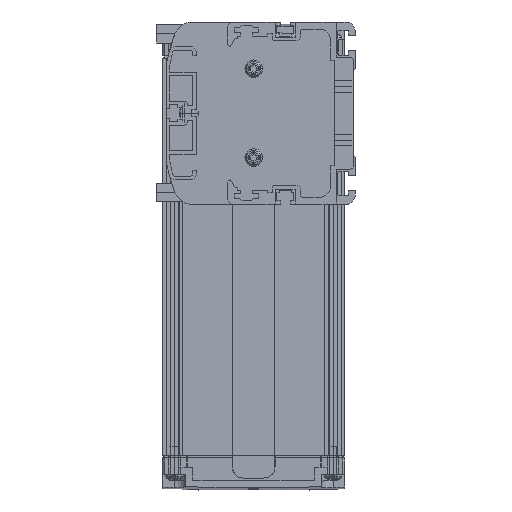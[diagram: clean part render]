
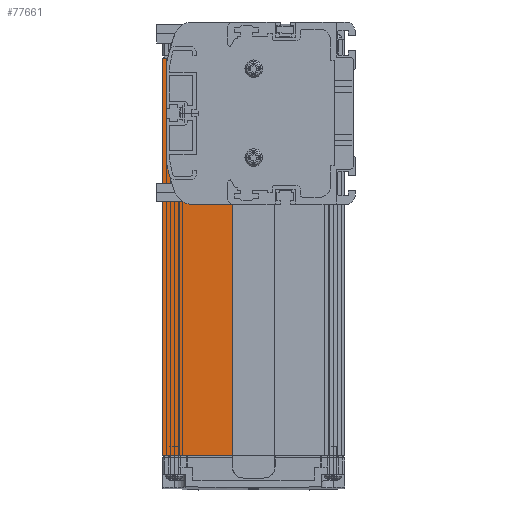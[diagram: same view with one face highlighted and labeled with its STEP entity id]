
A CAD part, left-side view. The second image highlights one B-rep face of the part: STEP entity #77661.
In plain terms, the highlighted planar face has unit normal (-1, 0, 0).
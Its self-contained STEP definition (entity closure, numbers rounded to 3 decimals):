
#75602=DIRECTION('',(0.,0.,1.));
#75603=VECTOR('',#75602,51.);
#75604=CARTESIAN_POINT('',(3.,70.5,-27.5));
#75605=LINE('',#75604,#75603);
#76251=DIRECTION('',(0.,0.,1.));
#76252=VECTOR('',#76251,170.);
#76253=CARTESIAN_POINT('',(3.,82.5,-146.5));
#76254=LINE('',#76253,#76252);
#76269=DIRECTION('',(0.,-1.,0.));
#76270=VECTOR('',#76269,29.9);
#76271=CARTESIAN_POINT('',(3.,82.5,-146.5));
#76272=LINE('',#76271,#76270);
#76273=DIRECTION('',(0.,1.,0.));
#76274=VECTOR('',#76273,12.);
#76275=CARTESIAN_POINT('',(3.,70.5,23.5));
#76276=LINE('',#76275,#76274);
#76277=DIRECTION('',(0.,1.,0.));
#76278=VECTOR('',#76277,17.9);
#76279=CARTESIAN_POINT('',(3.,52.6,-27.5));
#76280=LINE('',#76279,#76278);
#76387=DIRECTION('',(0.,0.,1.));
#76388=VECTOR('',#76387,119.);
#76389=CARTESIAN_POINT('',(3.,52.6,-146.5));
#76390=LINE('',#76389,#76388);
#76474=CARTESIAN_POINT('',(3.,70.5,23.5));
#76476=VERTEX_POINT('',#76474);
#76568=CARTESIAN_POINT('',(3.,82.5,23.5));
#76569=VERTEX_POINT('',#76568);
#76642=CARTESIAN_POINT('',(3.,82.5,-146.5));
#76643=VERTEX_POINT('',#76642);
#76644=CARTESIAN_POINT('',(3.,52.6,-146.5));
#76645=VERTEX_POINT('',#76644);
#76706=CARTESIAN_POINT('',(3.,70.5,-27.5));
#76707=VERTEX_POINT('',#76706);
#76708=CARTESIAN_POINT('',(3.,52.6,-27.5));
#76709=VERTEX_POINT('',#76708);
#77646=CARTESIAN_POINT('',(3.,67.55,-61.5));
#77647=DIRECTION('',(1.,0.,0.));
#77648=DIRECTION('',(0.,1.,0.));
#77649=AXIS2_PLACEMENT_3D('',#77646,#77647,#77648);
#77650=PLANE('',#77649);
#77651=ORIENTED_EDGE('',*,*,#76892,.F.);
#77653=ORIENTED_EDGE('',*,*,#77652,.F.);
#77655=ORIENTED_EDGE('',*,*,#77654,.F.);
#77656=ORIENTED_EDGE('',*,*,#77220,.F.);
#77657=ORIENTED_EDGE('',*,*,#77634,.T.);
#77658=ORIENTED_EDGE('',*,*,#76761,.F.);
#77659=EDGE_LOOP('',(#77651,#77653,#77655,#77656,#77657,#77658));
#77660=FACE_OUTER_BOUND('',#77659,.F.);
#77661=ADVANCED_FACE('',(#77660),#77650,.F.);
#76761=EDGE_CURVE('',#76476,#76569,#76276,.T.);
#76892=EDGE_CURVE('',#76707,#76476,#75605,.T.);
#77220=EDGE_CURVE('',#76643,#76645,#76272,.T.);
#77634=EDGE_CURVE('',#76643,#76569,#76254,.T.);
#77652=EDGE_CURVE('',#76709,#76707,#76280,.T.);
#77654=EDGE_CURVE('',#76645,#76709,#76390,.T.);
